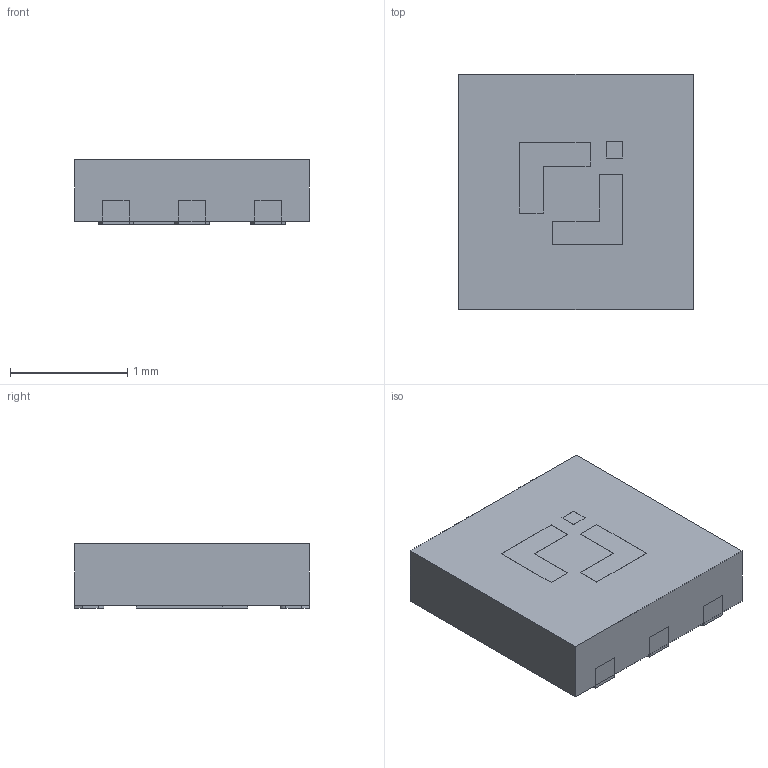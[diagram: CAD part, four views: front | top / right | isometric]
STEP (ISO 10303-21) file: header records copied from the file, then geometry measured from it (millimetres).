
FILE_DESCRIPTION(('HOOPS Exchange Step'),'2;1');
FILE_NAME('C:\Users\xch_j\AppData\Local\Packages\Shapr3D.Shapr3D_j403pzjkqtqbj\TempState\export\temp_export','2026-02-01T20:11:56+08:00',('xch_j'),('Shapr3D Limited'),'HOOPS Exchange 2025.9','Shapr3D','Authorized');
FILE_SCHEMA( ('AP242_MANAGED_MODEL_BASED_3D_ENGINEERING_MIM_LF {1 0 10303 442 1 1 4}') );
Length unit declared in the file: millimetre
Products named in the file (1): root
Bounding box: 2 x 2 x 0.55 mm (x, y, z)
Volume: 2.2 mm3; surface area: 16.4 mm2
Topology: 9 solids, 9 shells, 110 faces, 267 edges, 178 vertices
Faces by surface type: plane 98, cylinder 12
Entity records: 3227 total; most frequent: CARTESIAN_POINT 557, ORIENTED_EDGE 534, DIRECTION 515, EDGE_CURVE 267, VECTOR 243, LINE 243, VERTEX_POINT 178, AXIS2_PLACEMENT_3D 136
